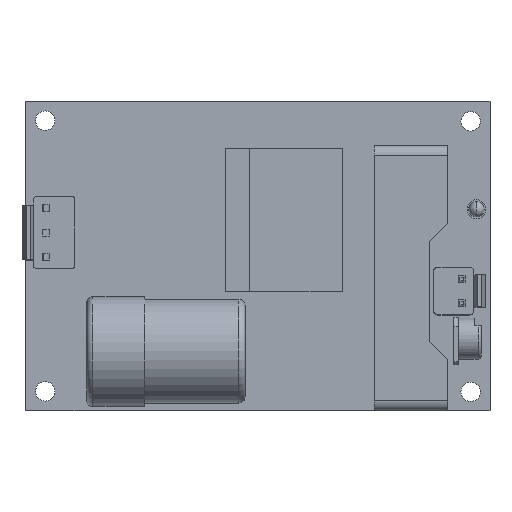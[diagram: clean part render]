
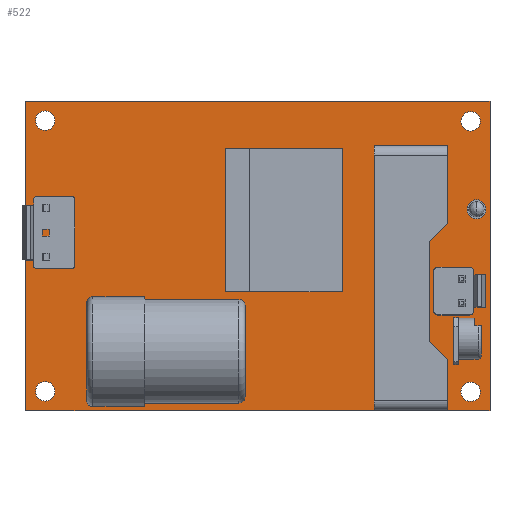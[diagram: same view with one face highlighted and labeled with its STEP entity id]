
A CAD part, top view. The second image highlights one B-rep face of the part: STEP entity #522.
In plain terms, the highlighted planar face has unit normal (0, 0, 1).
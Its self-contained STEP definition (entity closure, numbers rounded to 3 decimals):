
#112=CARTESIAN_POINT('',(52.299,-5.253,1.6));
#113=VERTEX_POINT('',#112);
#114=CARTESIAN_POINT('',(50.699,-5.253,1.6));
#115=DIRECTION('',(0.0,0.0,-1.0));
#116=DIRECTION('',(-1.0,0.0,0.0));
#117=AXIS2_PLACEMENT_3D('',#114,#115,#116);
#118=CIRCLE('',#117,1.6);
#119=EDGE_CURVE('',#113,#113,#118,.T.);
#140=CARTESIAN_POINT('',(52.299,39.147,1.6));
#141=VERTEX_POINT('',#140);
#142=CARTESIAN_POINT('',(50.699,39.147,1.6));
#143=DIRECTION('',(0.0,0.0,-1.0));
#144=DIRECTION('',(-1.0,0.0,0.0));
#145=AXIS2_PLACEMENT_3D('',#142,#143,#144);
#146=CIRCLE('',#145,1.6);
#147=EDGE_CURVE('',#141,#141,#146,.T.);
#168=CARTESIAN_POINT('',(-17.551,-5.178,1.6));
#169=VERTEX_POINT('',#168);
#170=CARTESIAN_POINT('',(-19.151,-5.178,1.6));
#171=DIRECTION('',(0.0,0.0,-1.0));
#172=DIRECTION('',(-1.0,0.0,0.0));
#173=AXIS2_PLACEMENT_3D('',#170,#171,#172);
#174=CIRCLE('',#173,1.6);
#175=EDGE_CURVE('',#169,#169,#174,.T.);
#196=CARTESIAN_POINT('',(-17.551,39.272,1.6));
#197=VERTEX_POINT('',#196);
#198=CARTESIAN_POINT('',(-19.151,39.272,1.6));
#199=DIRECTION('',(0.0,0.0,-1.0));
#200=DIRECTION('',(-1.0,0.0,0.0));
#201=AXIS2_PLACEMENT_3D('',#198,#199,#200);
#202=CIRCLE('',#201,1.6);
#203=EDGE_CURVE('',#197,#197,#202,.T.);
#224=CARTESIAN_POINT('',(-22.326,-8.353,1.6));
#225=VERTEX_POINT('',#224);
#226=CARTESIAN_POINT('',(-22.326,42.447,1.6));
#227=VERTEX_POINT('',#226);
#228=CARTESIAN_POINT('',(-22.326,-8.353,1.6));
#229=DIRECTION('',(0.0,1.0,0.0));
#230=VECTOR('',#229,50.8);
#231=LINE('',#228,#230);
#232=EDGE_CURVE('',#225,#227,#231,.T.);
#264=CARTESIAN_POINT('',(53.874,42.447,1.6));
#265=VERTEX_POINT('',#264);
#266=CARTESIAN_POINT('',(-22.326,42.447,1.6));
#267=DIRECTION('',(1.0,0.0,0.0));
#268=VECTOR('',#267,76.2);
#269=LINE('',#266,#268);
#270=EDGE_CURVE('',#227,#265,#269,.T.);
#295=CARTESIAN_POINT('',(53.874,-8.353,1.6));
#296=VERTEX_POINT('',#295);
#297=CARTESIAN_POINT('',(53.874,42.447,1.6));
#298=DIRECTION('',(0.0,-1.0,0.0));
#299=VECTOR('',#298,50.8);
#300=LINE('',#297,#299);
#301=EDGE_CURVE('',#265,#296,#300,.T.);
#326=CARTESIAN_POINT('',(43.674,-8.353,1.6));
#327=VERTEX_POINT('',#326);
#328=CARTESIAN_POINT('',(53.874,-8.353,1.6));
#329=DIRECTION('',(-1.0,0.0,0.0));
#330=VECTOR('',#329,10.2);
#331=LINE('',#328,#330);
#332=EDGE_CURVE('',#296,#327,#331,.T.);
#357=CARTESIAN_POINT('',(43.674,-6.853,1.6));
#358=VERTEX_POINT('',#357);
#359=CARTESIAN_POINT('',(43.674,-8.353,1.6));
#360=DIRECTION('',(0.0,1.0,0.0));
#361=VECTOR('',#360,1.5);
#362=LINE('',#359,#361);
#363=EDGE_CURVE('',#327,#358,#362,.T.);
#388=CARTESIAN_POINT('',(41.174,-6.853,1.6));
#389=VERTEX_POINT('',#388);
#390=CARTESIAN_POINT('',(43.674,-6.853,1.6));
#391=DIRECTION('',(-1.0,0.0,0.0));
#392=VECTOR('',#391,2.5);
#393=LINE('',#390,#392);
#394=EDGE_CURVE('',#358,#389,#393,.T.);
#419=CARTESIAN_POINT('',(41.174,-8.353,1.6));
#420=VERTEX_POINT('',#419);
#421=CARTESIAN_POINT('',(41.174,-6.853,1.6));
#422=DIRECTION('',(0.0,-1.0,0.0));
#423=VECTOR('',#422,1.5);
#424=LINE('',#421,#423);
#425=EDGE_CURVE('',#389,#420,#424,.T.);
#450=CARTESIAN_POINT('',(41.174,-8.353,1.6));
#451=DIRECTION('',(-1.0,0.0,0.0));
#452=VECTOR('',#451,63.5);
#453=LINE('',#450,#452);
#454=EDGE_CURVE('',#420,#225,#453,.T.);
#495=CARTESIAN_POINT('',(16.085,16.773,1.6));
#496=DIRECTION('',(0.0,0.0,1.0));
#497=DIRECTION('',(1.0,0.0,0.0));
#498=AXIS2_PLACEMENT_3D('',#495,#496,#497);
#499=PLANE('',#498);
#500=ORIENTED_EDGE('',*,*,#232,.F.);
#501=ORIENTED_EDGE('',*,*,#454,.F.);
#502=ORIENTED_EDGE('',*,*,#425,.F.);
#503=ORIENTED_EDGE('',*,*,#394,.F.);
#504=ORIENTED_EDGE('',*,*,#363,.F.);
#505=ORIENTED_EDGE('',*,*,#332,.F.);
#506=ORIENTED_EDGE('',*,*,#301,.F.);
#507=ORIENTED_EDGE('',*,*,#270,.F.);
#508=EDGE_LOOP('',(#500,#501,#502,#503,#504,#505,#506,#507));
#509=FACE_OUTER_BOUND('',#508,.T.);
#510=ORIENTED_EDGE('',*,*,#119,.T.);
#511=EDGE_LOOP('',(#510));
#512=FACE_BOUND('',#511,.T.);
#513=ORIENTED_EDGE('',*,*,#147,.T.);
#514=EDGE_LOOP('',(#513));
#515=FACE_BOUND('',#514,.T.);
#516=ORIENTED_EDGE('',*,*,#175,.T.);
#517=EDGE_LOOP('',(#516));
#518=FACE_BOUND('',#517,.T.);
#519=ORIENTED_EDGE('',*,*,#203,.T.);
#520=EDGE_LOOP('',(#519));
#521=FACE_BOUND('',#520,.T.);
#522=ADVANCED_FACE('',(#509,#512,#515,#518,#521),#499,.T.);
